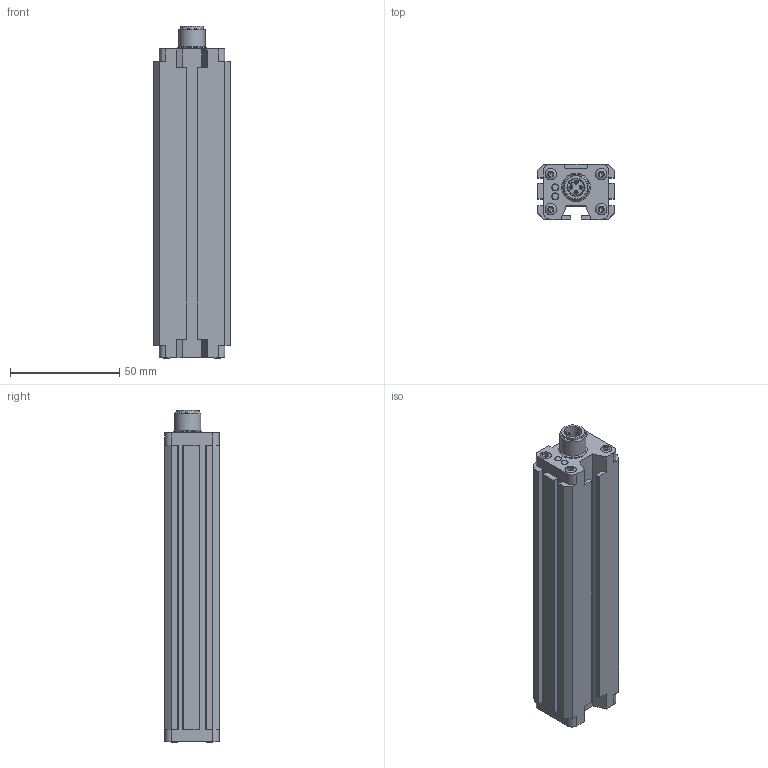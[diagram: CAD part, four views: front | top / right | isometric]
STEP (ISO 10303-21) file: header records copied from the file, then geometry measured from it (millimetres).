
FILE_DESCRIPTION((''),'2;1');
FILE_NAME('C:\TurckZip\M1536630.stp','2009-03-25T11:56:15',('IKOROL'),(''),'Autodesk Inventor 2009','Autodesk Inventor 2009','');
FILE_SCHEMA(('CONFIG_CONTROL_DESIGN'));
Length unit declared in the file: millimetre
Products named in the file (1): Part19
Bounding box: 35 x 25 x 151.65 mm (x, y, z)
Volume: 108850.3 mm3; surface area: 25039.6 mm2
Topology: 19 solids, 19 shells, 295 faces, 703 edges, 454 vertices
Faces by surface type: plane 159, cylinder 82, bspline 28, cone 19, torus 7
Full cylindrical faces by diameter (mm): 1 x12, 3 x8, 3.1 x2, 3.2 x2, 5.2 x16, 8 x1, 8.3 x1, 9.45 x1, 9.6 x1, 9.9 x1, 10 x1, 10.5 x1, 12 x1, 13 x1
Entity records: 9025 total; most frequent: CARTESIAN_POINT 2423, DIRECTION 1258, ORIENTED_EDGE 1138, EDGE_CURVE 569, AXIS2_PLACEMENT_3D 471, EDGE_LOOP 436, VERTEX_POINT 422, VECTOR 316
